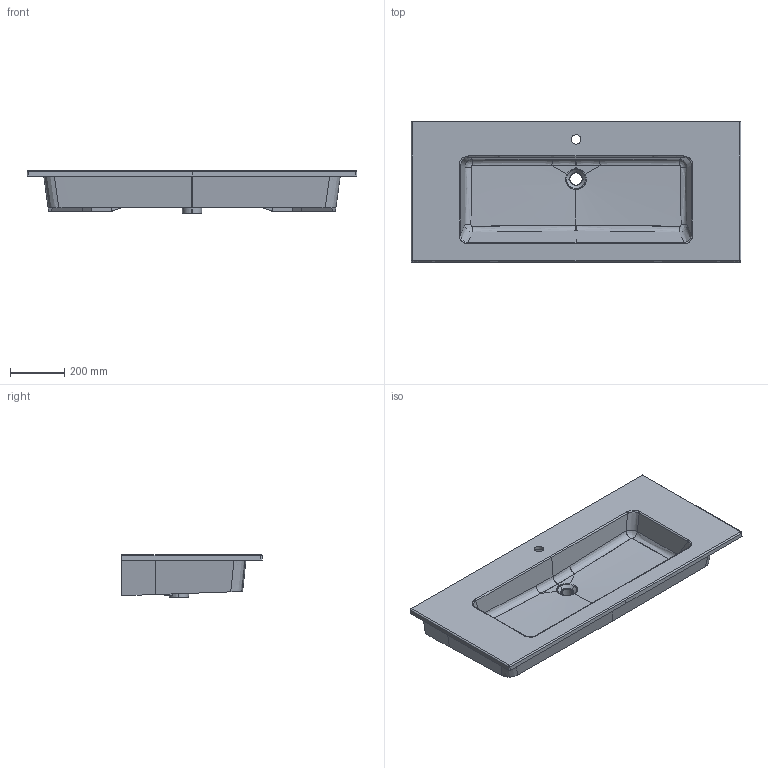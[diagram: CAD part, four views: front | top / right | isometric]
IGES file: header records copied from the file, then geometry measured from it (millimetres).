
Start section: START RECORD GO HERE.
Global section: file name: 2047_Lavabo 121.igs; native system: DASSAULT SYSTEMES CATIA V5 R19 - www.3ds.com; preprocessor: CATIA Version 5 Release 19 SP 5 ; author: gioge; organization: LAPTOP-G94B6G74; date: 20200622.120700; units: millimetre
Bounding box: 1211.4 x 515.7 x 157.5 mm (x, y, z)
Surface area: 2056881.8 mm2 (no closed solid volume)
Topology: 0 solids, 0 shells, 187 faces, 1023 edges, 1021 vertices
Faces by surface type: bspline 90, revolution 49, plane 40, extrusion 8
